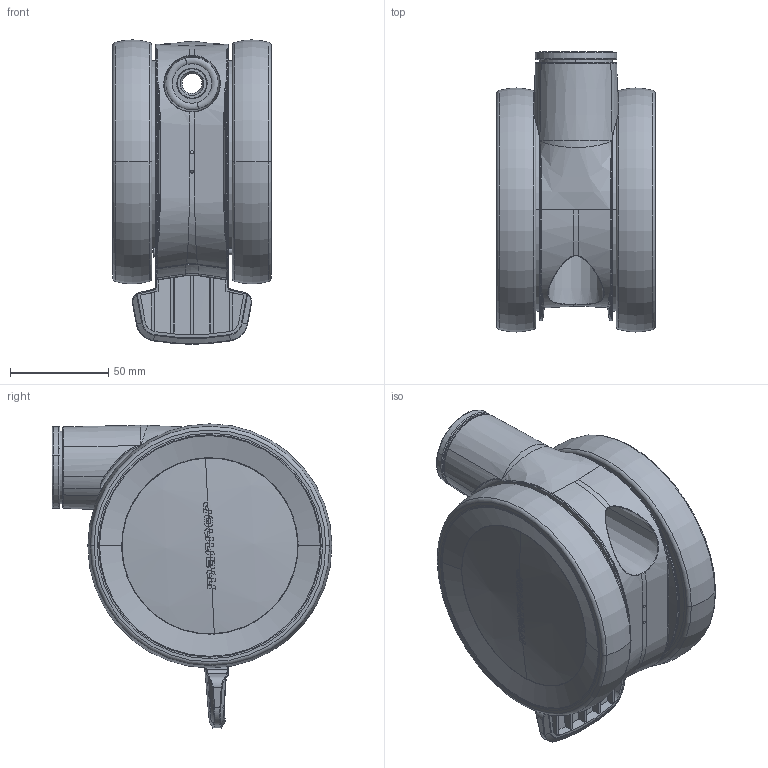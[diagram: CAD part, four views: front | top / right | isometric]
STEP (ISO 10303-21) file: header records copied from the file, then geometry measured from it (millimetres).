
FILE_DESCRIPTION (( 'STEP AP214' ), '1' );
FILE_NAME ('305011 TW-J-S-125 GP_K H.STEP', '2020-01-20T06:31:58', ( '' ), ( '' ), 'SwSTEP 2.0', 'SolidWorks 2017', '' );
FILE_SCHEMA (( 'AUTOMOTIVE_DESIGN' ));
Length unit declared in the file: millimetre
Products named in the file (1): 305011 TW-J-S-125 GP_K H
Bounding box: 81 x 142.75 x 155.18 mm (x, y, z)
Volume: 453656.6 mm3; surface area: 291297.4 mm2
Topology: 20 solids, 20 shells, 4123 faces, 10548 edges, 6442 vertices
Faces by surface type: plane 1514, cylinder 1384, torus 525, bspline 422, sphere 152, cone 126
Entity records: 190680 total; most frequent: CARTESIAN_POINT 51208, ORIENTED_EDGE 21002, DIRECTION 18576, EDGE_CURVE 10501, AXIS2_PLACEMENT_3D 7191, VERTEX_POINT 6439, EDGE_LOOP 4230, LINE 4194
